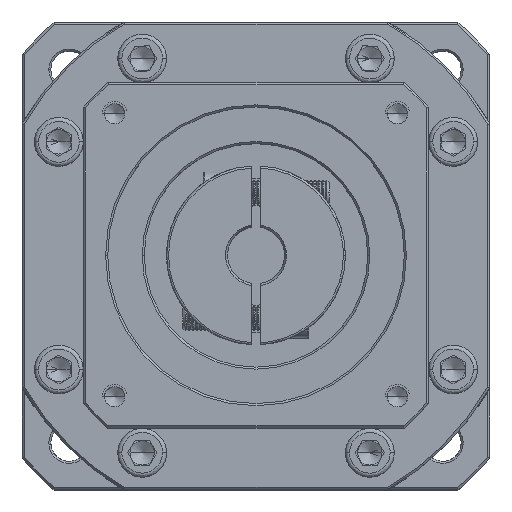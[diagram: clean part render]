
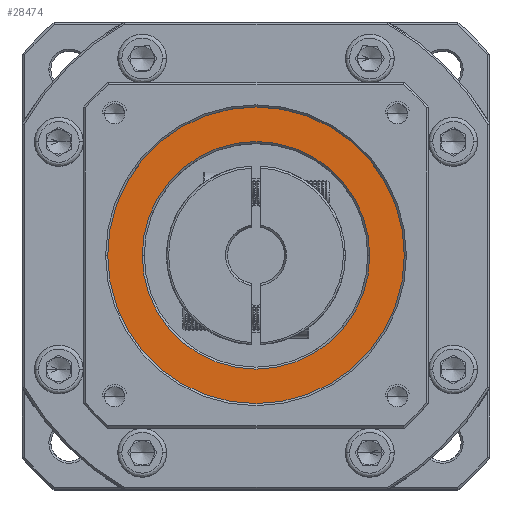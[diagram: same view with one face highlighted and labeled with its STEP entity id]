
A CAD part, top view. The second image highlights one B-rep face of the part: STEP entity #28474.
In plain terms, the highlighted planar face has unit normal (0, 0, 1).
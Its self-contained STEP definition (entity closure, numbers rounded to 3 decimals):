
#2989 = EDGE_LOOP ( 'NONE', ( #11980, #92896 ) ) ;
#9525 = CARTESIAN_POINT ( 'NONE',  ( 57.835, 76.659, 18.624 ) ) ;
#9614 = CARTESIAN_POINT ( 'NONE',  ( 21.335, 76.659, 18.624 ) ) ;
#11708 = FACE_BOUND ( 'NONE', #121409, .T. ) ;
#11980 = ORIENTED_EDGE ( 'NONE', *, *, #117185, .T. ) ;
#13087 = CARTESIAN_POINT ( 'NONE',  ( 57.835, 76.659, 18.624 ) ) ;
#15224 = ORIENTED_EDGE ( 'NONE', *, *, #102468, .T. ) ;
#18935 = DIRECTION ( 'NONE',  ( 1., 0., 0. ) ) ;
#22559 = DIRECTION ( 'NONE',  ( 1., 0., 0. ) ) ;
#24946 = VERTEX_POINT ( 'NONE', #58058 ) ;
#28474 = ADVANCED_FACE ( 'NONE', ( #36629, #11708 ), #60122, .T. ) ;
#32322 = CARTESIAN_POINT ( 'NONE',  ( 57.835, 76.659, 18.624 ) ) ;
#33864 = CARTESIAN_POINT ( 'NONE',  ( 94.335, 76.659, 18.624 ) ) ;
#36303 = DIRECTION ( 'NONE',  ( 0., 0., -1. ) ) ;
#36629 = FACE_OUTER_BOUND ( 'NONE', #2989, .T. ) ;
#38126 = AXIS2_PLACEMENT_3D ( 'NONE', #13087, #78631, #22559 ) ;
#39686 = VERTEX_POINT ( 'NONE', #33864 ) ;
#40099 = DIRECTION ( 'NONE',  ( 0., 0., -1. ) ) ;
#41713 = DIRECTION ( 'NONE',  ( 1., 0., 0. ) ) ;
#45415 = CIRCLE ( 'NONE', #109722, 36.5 ) ;
#48646 = CIRCLE ( 'NONE', #111440, 28. ) ;
#52673 = AXIS2_PLACEMENT_3D ( 'NONE', #92404, #36303, #101898 ) ;
#55545 = CIRCLE ( 'NONE', #38126, 36.5 ) ;
#58058 = CARTESIAN_POINT ( 'NONE',  ( 85.835, 76.659, 18.624 ) ) ;
#60122 = PLANE ( 'NONE',  #107250 ) ;
#62309 = EDGE_CURVE ( 'NONE', #73037, #39686, #55545, .T. ) ;
#62421 = CARTESIAN_POINT ( 'NONE',  ( 29.835, 76.659, 18.624 ) ) ;
#72037 = VERTEX_POINT ( 'NONE', #62421 ) ;
#73037 = VERTEX_POINT ( 'NONE', #9614 ) ;
#74798 = ORIENTED_EDGE ( 'NONE', *, *, #75843, .T. ) ;
#75023 = DIRECTION ( 'NONE',  ( 0., 0., 1. ) ) ;
#75843 = EDGE_CURVE ( 'NONE', #72037, #24946, #48646, .T. ) ;
#78631 = DIRECTION ( 'NONE',  ( 0., 0., 1. ) ) ;
#83453 = CIRCLE ( 'NONE', #52673, 28. ) ;
#92404 = CARTESIAN_POINT ( 'NONE',  ( 57.835, 76.659, 18.624 ) ) ;
#92896 = ORIENTED_EDGE ( 'NONE', *, *, #62309, .T. ) ;
#96245 = CARTESIAN_POINT ( 'NONE',  ( 57.835, 76.659, 18.624 ) ) ;
#97808 = DIRECTION ( 'NONE',  ( 0., 0., 1. ) ) ;
#101898 = DIRECTION ( 'NONE',  ( 1., 0., 0. ) ) ;
#102468 = EDGE_CURVE ( 'NONE', #24946, #72037, #83453, .T. ) ;
#105699 = DIRECTION ( 'NONE',  ( 1., 0., 0. ) ) ;
#107250 = AXIS2_PLACEMENT_3D ( 'NONE', #32322, #97808, #41713 ) ;
#109722 = AXIS2_PLACEMENT_3D ( 'NONE', #9525, #75023, #18935 ) ;
#111440 = AXIS2_PLACEMENT_3D ( 'NONE', #96245, #40099, #105699 ) ;
#117185 = EDGE_CURVE ( 'NONE', #39686, #73037, #45415, .T. ) ;
#121409 = EDGE_LOOP ( 'NONE', ( #15224, #74798 ) ) ;
